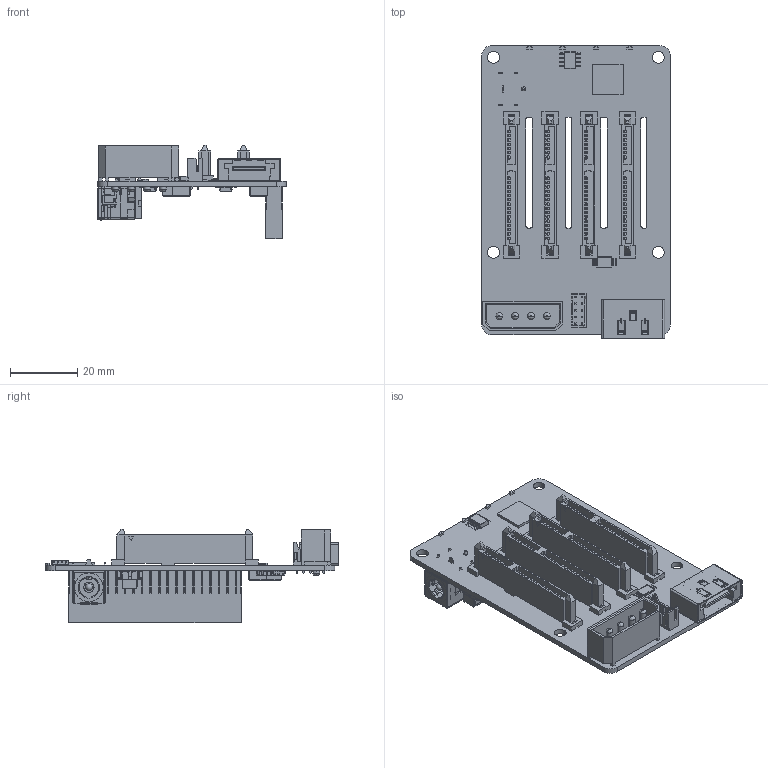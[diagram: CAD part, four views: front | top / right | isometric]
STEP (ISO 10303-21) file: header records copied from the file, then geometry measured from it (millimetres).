
FILE_DESCRIPTION((''),'2;1');
FILE_NAME('RA006_PENTA_SATA_HAT','2024-05-23T18:16:16',('admin'),(''),'CREO PARAMETRIC BY PTC INC, 2024063','CREO PARAMETRIC BY PTC INC, 2024063','');
FILE_SCHEMA(('CONFIG_CONTROL_DESIGN','SHAPE_APPEARANCE_LAYERS_GROUPS'));
Products named in the file (1): RA006_PENTA_SATA_HAT
Bounding box: 56 x 87.03 x 27.8 mm (x, y, z)
Volume: 17563.4 mm3; surface area: 25652.4 mm2
Topology: 5 solids, 9 shells, 4385 faces, 12142 edges, 7838 vertices
Faces by surface type: plane 3555, cylinder 551, bspline 150, extrusion 78, sphere 31, cone 14, torus 6
Entity records: 144522 total; most frequent: CARTESIAN_POINT 32095, ORIENTED_EDGE 24220, DIRECTION 20958, EDGE_CURVE 12110, VECTOR 10464, LINE 10386, VERTEX_POINT 7838, AXIS2_PLACEMENT_3D 5247
